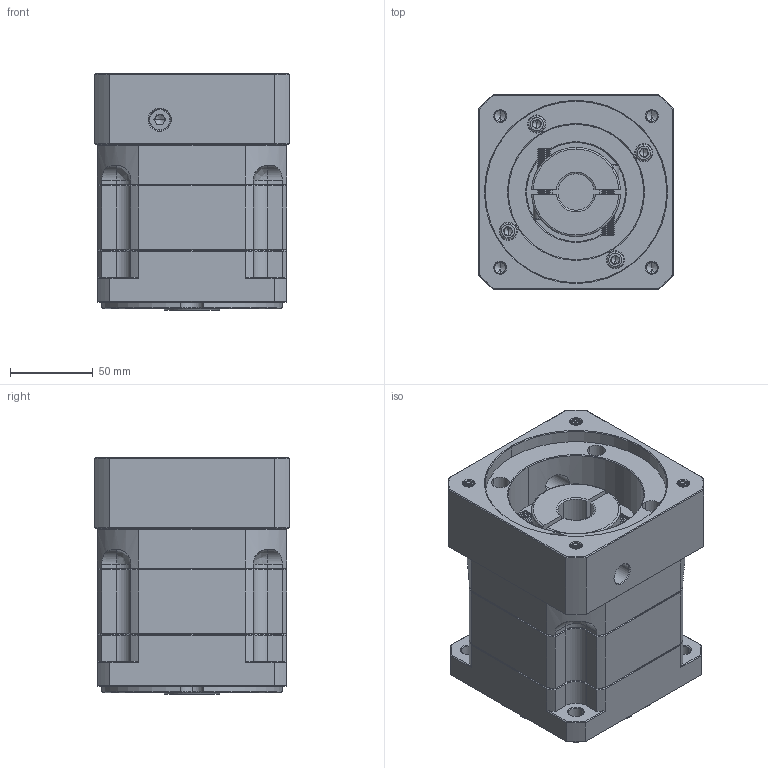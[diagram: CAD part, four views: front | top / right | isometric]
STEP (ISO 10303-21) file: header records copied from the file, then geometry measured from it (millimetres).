
FILE_DESCRIPTION (( 'STEP AP214' ), '1' );
FILE_NAME ('ZB115A-K25-L1-P2-22-110-130-M8.step', '2023-08-26T06:35:09', ( '' ), ( '' ), 'SwSTEP 2.0', 'SolidWorks 2016', '' );
FILE_SCHEMA (( 'AUTOMOTIVE_DESIGN' ));
Length unit declared in the file: millimetre
Products named in the file (1): ZB115A-K25-L1-P2-22-110-130-M8
Bounding box: 118 x 118 x 143.5 mm (x, y, z)
Volume: 1501167.2 mm3; surface area: 167451.1 mm2
Topology: 6 solids, 6 shells, 2341 faces, 6142 edges, 3901 vertices
Faces by surface type: plane 1137, bspline 414, cylinder 408, cone 362, torus 20
Entity records: 123779 total; most frequent: CARTESIAN_POINT 43709, ORIENTED_EDGE 12220, DIRECTION 9720, EDGE_CURVE 6110, VECTOR 3946, LINE 3946, VERTEX_POINT 3901, AXIS2_PLACEMENT_3D 2887
